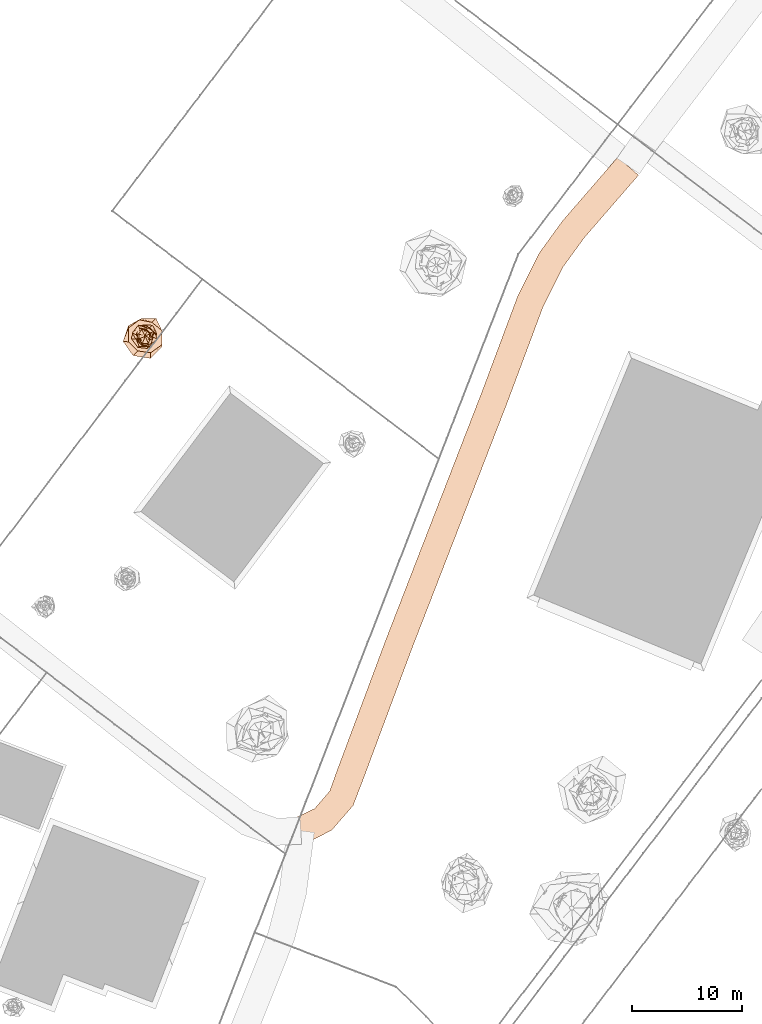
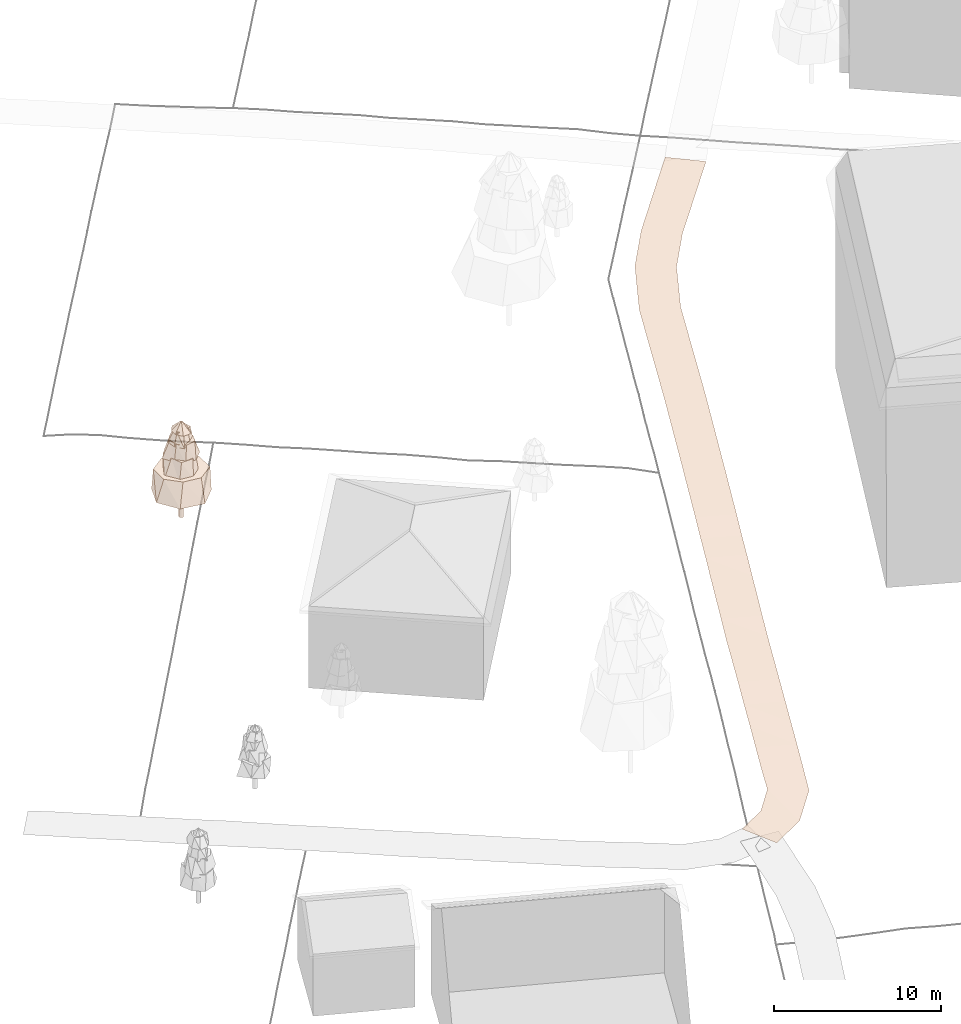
# Not in any storey, part 79 of 88: 2 geographic elements.
"""IFC4 model written with IfcOpenShell, lengths in metres."""

from ifc_helpers import new_model, si_unit, frame, origin_with_axes, place, context, subcontext, project, spatial, circle, extrude, faceted_brep, triangles, element, save


model = new_model("IFC4")

# Units and contexts
model_context = context("Model", 3, precision=1e-05, world=origin_with_axes())
body_context = subcontext(model_context, "Body", "Model", "MODEL_VIEW")
ifc_project = project(units=[si_unit("LENGTHUNIT", "METRE"), si_unit("AREAUNIT", "SQUARE_METRE"), si_unit("VOLUMEUNIT", "CUBIC_METRE"), si_unit("PLANEANGLEUNIT", "RADIAN")], contexts=[model_context])

# Sites
site_1_placement = place(None, origin_with_axes())
site_1 = spatial("IfcSite", under=ifc_project, at=site_1_placement, Name="CH907857693633", CompositionType="ELEMENT")
site_2_placement = place(None, origin_with_axes())
site_2 = spatial("IfcSite", under=site_1, at=site_2_placement, Name="Vegetation", CompositionType="ELEMENT")

# Geographic element
geographic_element_1_placement = place(None, frame((22.1620000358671, 147.274003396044, 6.801025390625), z_axis=(0.0, 0.0, 1.0), x_axis=(1.0, 0.0, 0.0)))
element("IfcGeographicElement", 1, at=geographic_element_1_placement, inside=site_2, Name="Tree_einzelbaum", ObjectType="VEGETATION", PredefinedType="USERDEFINED", context=body_context, shape_type="Brep", body=[
    extrude(circle(Radius=0.15), origin_with_axes(), (0.0, 0.0, 1.0), 1.97711560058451),
    faceted_brep([(1.54180832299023, -0.949039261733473, 1.97711560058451), (0.481224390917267, -2.02213086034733, 1.97711560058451), (-1.08536850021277, -1.76328868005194, 1.97711560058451), (-1.99094691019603, -0.473803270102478, 1.97711560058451), (-1.51908018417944, 0.935049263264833, 1.97711560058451), (-0.377123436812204, 1.58469303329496, 1.97711560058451), (0.999682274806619, 1.62408291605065, 1.97711560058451), (1.54812432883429, 0.368420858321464, 1.97711560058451), (1.51712291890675, 0.525818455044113, 3.54947756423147), (0.610751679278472, 1.25867472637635, 3.54947756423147), (-0.513820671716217, 1.48250619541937, 3.54947756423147), (-1.51402443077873, 0.734656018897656, 3.54947756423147), (-1.50591803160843, -0.521934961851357, 3.54947756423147), (-0.652344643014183, -1.34439207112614, 3.54947756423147), (0.522243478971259, -1.50680818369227, 3.54947756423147), (1.5609606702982, -0.757431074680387, 3.54947756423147), (1.54812432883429, 0.368420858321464, 1.97711560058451), (0.999682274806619, 1.62408291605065, 1.97711560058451), (0.610751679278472, 1.25867472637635, 3.54947756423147), (1.51712291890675, 0.525818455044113, 3.54947756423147), (0.999682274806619, 1.62408291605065, 1.97711560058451), (-0.377123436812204, 1.58469303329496, 1.97711560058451), (-0.513820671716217, 1.48250619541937, 3.54947756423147), (0.610751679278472, 1.25867472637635, 3.54947756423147), (-0.377123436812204, 1.58469303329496, 1.97711560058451), (-1.51908018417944, 0.935049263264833, 1.97711560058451), (-1.51402443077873, 0.734656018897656, 3.54947756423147), (-0.513820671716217, 1.48250619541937, 3.54947756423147), (-1.51908018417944, 0.935049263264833, 1.97711560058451), (-1.99094691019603, -0.473803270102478, 1.97711560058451), (-1.50591803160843, -0.521934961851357, 3.54947756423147), (-1.51402443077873, 0.734656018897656, 3.54947756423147), (-1.99094691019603, -0.473803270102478, 1.97711560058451), (-1.08536850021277, -1.76328868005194, 1.97711560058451), (-0.652344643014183, -1.34439207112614, 3.54947756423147), (-1.50591803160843, -0.521934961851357, 3.54947756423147), (-1.08536850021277, -1.76328868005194, 1.97711560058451), (0.481224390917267, -2.02213086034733, 1.97711560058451), (0.522243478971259, -1.50680818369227, 3.54947756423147), (-0.652344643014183, -1.34439207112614, 3.54947756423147), (0.481224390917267, -2.02213086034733, 1.97711560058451), (1.54180832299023, -0.949039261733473, 1.97711560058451), (1.5609606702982, -0.757431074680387, 3.54947756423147), (0.522243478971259, -1.50680818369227, 3.54947756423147), (1.54180832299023, -0.949039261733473, 1.97711560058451), (1.54812432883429, 0.368420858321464, 1.97711560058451), (1.51712291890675, 0.525818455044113, 3.54947756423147), (1.5609606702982, -0.757431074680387, 3.54947756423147)], [[[0, 1, 2, 3, 4, 5, 6, 7]], [[8, 9, 10, 11, 12, 13, 14, 15]], [[16, 17, 18, 19]], [[20, 21, 22, 23]], [[24, 25, 26, 27]], [[28, 29, 30, 31]], [[32, 33, 34, 35]], [[36, 37, 38, 39]], [[40, 41, 42, 43]], [[44, 45, 46, 47]]]),
    faceted_brep([(0.867536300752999, -0.599147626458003, 3.31362326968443), (0.208492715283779, -1.13936594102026, 3.31362326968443), (-0.714143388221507, -1.03404450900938, 3.31362326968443), (-1.31095918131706, -0.239892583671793, 3.31362326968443), (-0.895877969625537, 0.618721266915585, 3.31362326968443), (-0.191235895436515, 1.04506128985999, 3.31362326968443), (0.708489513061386, 1.02585797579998, 3.31362326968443), (1.09301063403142, 0.200010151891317, 3.31362326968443), (0.92898914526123, 0.268128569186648, 4.68178103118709), (0.439959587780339, 0.7969660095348, 4.68178103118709), (-0.226436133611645, 0.784536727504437, 4.68178103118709), (-0.949007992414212, 0.523893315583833, 4.68178103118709), (-0.822392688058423, -0.23736227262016, 4.68178103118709), (-0.520828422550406, -0.943456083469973, 4.68178103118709), (0.267335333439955, -0.92624080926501, 4.68178103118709), (0.743443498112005, -0.410412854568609, 4.68178103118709), (1.09301063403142, 0.200010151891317, 3.31362326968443), (0.708489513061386, 1.02585797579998, 3.31362326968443), (0.439959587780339, 0.7969660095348, 4.68178103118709), (0.92898914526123, 0.268128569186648, 4.68178103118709), (0.708489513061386, 1.02585797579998, 3.31362326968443), (-0.191235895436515, 1.04506128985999, 3.31362326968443), (-0.226436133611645, 0.784536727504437, 4.68178103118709), (0.439959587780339, 0.7969660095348, 4.68178103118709), (-0.191235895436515, 1.04506128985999, 3.31362326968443), (-0.895877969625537, 0.618721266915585, 3.31362326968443), (-0.949007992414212, 0.523893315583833, 4.68178103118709), (-0.226436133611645, 0.784536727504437, 4.68178103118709), (-0.895877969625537, 0.618721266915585, 3.31362326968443), (-1.31095918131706, -0.239892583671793, 3.31362326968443), (-0.822392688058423, -0.23736227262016, 4.68178103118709), (-0.949007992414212, 0.523893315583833, 4.68178103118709), (-1.31095918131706, -0.239892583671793, 3.31362326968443), (-0.714143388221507, -1.03404450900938, 3.31362326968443), (-0.520828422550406, -0.943456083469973, 4.68178103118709), (-0.822392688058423, -0.23736227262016, 4.68178103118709), (-0.714143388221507, -1.03404450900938, 3.31362326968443), (0.208492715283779, -1.13936594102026, 3.31362326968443), (0.267335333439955, -0.92624080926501, 4.68178103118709), (-0.520828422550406, -0.943456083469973, 4.68178103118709), (0.208492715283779, -1.13936594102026, 3.31362326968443), (0.867536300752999, -0.599147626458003, 3.31362326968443), (0.743443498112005, -0.410412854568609, 4.68178103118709), (0.267335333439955, -0.92624080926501, 4.68178103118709), (0.867536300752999, -0.599147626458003, 3.31362326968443), (1.09301063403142, 0.200010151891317, 3.31362326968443), (0.92898914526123, 0.268128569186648, 4.68178103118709), (0.743443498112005, -0.410412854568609, 4.68178103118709)], [[[0, 1, 2, 3, 4, 5, 6, 7]], [[8, 9, 10, 11, 12, 13, 14, 15]], [[16, 17, 18, 19]], [[20, 21, 22, 23]], [[24, 25, 26, 27]], [[28, 29, 30, 31]], [[32, 33, 34, 35]], [[36, 37, 38, 39]], [[40, 41, 42, 43]], [[44, 45, 46, 47]]]),
    faceted_brep([(1.13031694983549, -0.271890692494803, 4.47655736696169), (0.529531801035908, -0.864970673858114, 4.47655736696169), (-0.223704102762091, -0.929993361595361, 4.47655736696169), (-0.738188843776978, -0.451916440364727, 4.47655736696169), (-1.16073361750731, 0.279207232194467, 4.47655736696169), (-0.608997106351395, 0.994774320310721, 4.47655736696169), (0.216673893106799, 0.900767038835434, 4.47655736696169), (0.797557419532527, 0.488261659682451, 4.47655736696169), (0.506898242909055, 0.384817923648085, 5.74910438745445), (0.106375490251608, 0.777002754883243, 5.74910438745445), (-0.449244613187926, 0.591763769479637, 5.74910438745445), (-0.737470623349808, 0.10096334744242, 5.74910438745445), (-0.619327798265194, -0.470170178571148, 5.74910438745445), (-0.115067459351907, -0.840491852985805, 5.74910438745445), (0.540014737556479, -0.711329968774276, 5.74910438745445), (0.746415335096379, -0.10218792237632, 5.74910438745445), (0.797557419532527, 0.488261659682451, 4.47655736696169), (0.216673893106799, 0.900767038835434, 4.47655736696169), (0.106375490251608, 0.777002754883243, 5.74910438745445), (0.506898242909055, 0.384817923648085, 5.74910438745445), (0.216673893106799, 0.900767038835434, 4.47655736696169), (-0.608997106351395, 0.994774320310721, 4.47655736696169), (-0.449244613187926, 0.591763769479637, 5.74910438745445), (0.106375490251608, 0.777002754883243, 5.74910438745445), (-0.608997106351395, 0.994774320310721, 4.47655736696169), (-1.16073361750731, 0.279207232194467, 4.47655736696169), (-0.737470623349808, 0.10096334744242, 5.74910438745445), (-0.449244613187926, 0.591763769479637, 5.74910438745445), (-1.16073361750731, 0.279207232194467, 4.47655736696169), (-0.738188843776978, -0.451916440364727, 4.47655736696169), (-0.619327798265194, -0.470170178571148, 5.74910438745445), (-0.737470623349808, 0.10096334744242, 5.74910438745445), (-0.738188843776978, -0.451916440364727, 4.47655736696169), (-0.223704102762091, -0.929993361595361, 4.47655736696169), (-0.115067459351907, -0.840491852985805, 5.74910438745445), (-0.619327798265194, -0.470170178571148, 5.74910438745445), (-0.223704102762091, -0.929993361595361, 4.47655736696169), (0.529531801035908, -0.864970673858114, 4.47655736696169), (0.540014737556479, -0.711329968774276, 5.74910438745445), (-0.115067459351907, -0.840491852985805, 5.74910438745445), (0.529531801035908, -0.864970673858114, 4.47655736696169), (1.13031694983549, -0.271890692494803, 4.47655736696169), (0.746415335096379, -0.10218792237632, 5.74910438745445), (0.540014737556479, -0.711329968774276, 5.74910438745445), (1.13031694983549, -0.271890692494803, 4.47655736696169), (0.797557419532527, 0.488261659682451, 4.47655736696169), (0.506898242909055, 0.384817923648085, 5.74910438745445), (0.746415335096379, -0.10218792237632, 5.74910438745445)], [[[0, 1, 2, 3, 4, 5, 6, 7]], [[8, 9, 10, 11, 12, 13, 14, 15]], [[16, 17, 18, 19]], [[20, 21, 22, 23]], [[24, 25, 26, 27]], [[28, 29, 30, 31]], [[32, 33, 34, 35]], [[36, 37, 38, 39]], [[40, 41, 42, 43]], [[44, 45, 46, 47]]]),
    faceted_brep([(0.700121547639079, -0.22047147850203, 5.55822233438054), (0.302070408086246, -0.579764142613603, 5.55822233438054), (-0.272250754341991, -0.864550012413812, 5.55822233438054), (-0.696391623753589, -0.362835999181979, 5.55822233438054), (-0.790026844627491, 0.248783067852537, 5.55822233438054), (-0.388102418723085, 0.744885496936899, 5.55822233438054), (0.240152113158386, 0.762618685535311, 5.55822233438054), (0.799424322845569, 0.416518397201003, 5.55822233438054), (0.416356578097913, 0.272976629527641, 6.48819661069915), (0.11957109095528, 0.574866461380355, 6.48819661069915), (-0.258388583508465, 0.394106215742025, 6.48819661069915), (-0.408993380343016, 0.0850698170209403, 6.48819661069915), (-0.466391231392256, -0.30578094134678, 6.48819661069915), (-0.100629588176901, -0.48380068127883, 6.48819661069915), (0.236260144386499, -0.360354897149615, 6.48819661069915), (0.557022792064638, -0.115859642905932, 6.48819661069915), (0.799424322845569, 0.416518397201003, 5.55822233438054), (0.240152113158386, 0.762618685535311, 5.55822233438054), (0.11957109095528, 0.574866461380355, 6.48819661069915), (0.416356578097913, 0.272976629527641, 6.48819661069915), (0.240152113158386, 0.762618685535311, 5.55822233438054), (-0.388102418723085, 0.744885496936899, 5.55822233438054), (-0.258388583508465, 0.394106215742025, 6.48819661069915), (0.11957109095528, 0.574866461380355, 6.48819661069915), (-0.388102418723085, 0.744885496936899, 5.55822233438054), (-0.790026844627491, 0.248783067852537, 5.55822233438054), (-0.408993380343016, 0.0850698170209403, 6.48819661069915), (-0.258388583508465, 0.394106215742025, 6.48819661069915), (-0.790026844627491, 0.248783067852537, 5.55822233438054), (-0.696391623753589, -0.362835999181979, 5.55822233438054), (-0.466391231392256, -0.30578094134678, 6.48819661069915), (-0.408993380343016, 0.0850698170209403, 6.48819661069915), (-0.696391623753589, -0.362835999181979, 5.55822233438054), (-0.272250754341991, -0.864550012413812, 5.55822233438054), (-0.100629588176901, -0.48380068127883, 6.48819661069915), (-0.466391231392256, -0.30578094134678, 6.48819661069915), (-0.272250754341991, -0.864550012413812, 5.55822233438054), (0.302070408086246, -0.579764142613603, 5.55822233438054), (0.236260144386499, -0.360354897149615, 6.48819661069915), (-0.100629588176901, -0.48380068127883, 6.48819661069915), (0.302070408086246, -0.579764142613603, 5.55822233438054), (0.700121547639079, -0.22047147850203, 5.55822233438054), (0.557022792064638, -0.115859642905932, 6.48819661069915), (0.236260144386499, -0.360354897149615, 6.48819661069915), (0.700121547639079, -0.22047147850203, 5.55822233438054), (0.799424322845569, 0.416518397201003, 5.55822233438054), (0.416356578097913, 0.272976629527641, 6.48819661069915), (0.557022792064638, -0.115859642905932, 6.48819661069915)], [[[0, 1, 2, 3, 4, 5, 6, 7]], [[8, 9, 10, 11, 12, 13, 14, 15]], [[16, 17, 18, 19]], [[20, 21, 22, 23]], [[24, 25, 26, 27]], [[28, 29, 30, 31]], [[32, 33, 34, 35]], [[36, 37, 38, 39]], [[40, 41, 42, 43]], [[44, 45, 46, 47]]]),
    faceted_brep([(0.469744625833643, -0.16829967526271, 6.34870046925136), (0.308541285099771, -0.653064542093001, 6.34870046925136), (-0.243321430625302, -0.679139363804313, 6.34870046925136), (-0.563449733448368, -0.266202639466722, 6.34870046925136), (-0.567359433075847, 0.203273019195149, 6.34870046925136), (-0.290788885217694, 0.615489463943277, 6.34870046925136), (0.200716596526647, 0.560224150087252, 6.34870046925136), (0.534786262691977, 0.252660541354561, 6.34870046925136), (0.0746855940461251, 0.0449076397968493, 6.94023714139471), (0.0176328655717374, 0.0708165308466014, 6.94023714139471), (-0.0367709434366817, 0.0611535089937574, 6.94023714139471), (-0.0611163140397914, 0.015217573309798, 6.94023714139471), (-0.0628711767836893, -0.037803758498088, 6.94023714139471), (-0.01768133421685, -0.0710111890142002, 6.94023714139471), (0.0427094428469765, -0.0710297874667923, 6.94023714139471), (0.0781141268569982, -0.0194499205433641, 6.94023714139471), (0.534786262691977, 0.252660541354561, 6.34870046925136), (0.200716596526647, 0.560224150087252, 6.34870046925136), (0.0176328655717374, 0.0708165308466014, 6.94023714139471), (0.0746855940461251, 0.0449076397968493, 6.94023714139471), (0.200716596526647, 0.560224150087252, 6.34870046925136), (-0.290788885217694, 0.615489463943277, 6.34870046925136), (-0.0367709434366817, 0.0611535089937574, 6.94023714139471), (0.0176328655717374, 0.0708165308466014, 6.94023714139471), (-0.290788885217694, 0.615489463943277, 6.34870046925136), (-0.567359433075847, 0.203273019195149, 6.34870046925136), (-0.0611163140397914, 0.015217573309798, 6.94023714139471), (-0.0367709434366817, 0.0611535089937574, 6.94023714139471), (-0.567359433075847, 0.203273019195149, 6.34870046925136), (-0.563449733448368, -0.266202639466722, 6.34870046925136), (-0.0628711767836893, -0.037803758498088, 6.94023714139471), (-0.0611163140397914, 0.015217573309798, 6.94023714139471), (-0.563449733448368, -0.266202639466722, 6.34870046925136), (-0.243321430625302, -0.679139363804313, 6.34870046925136), (-0.01768133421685, -0.0710111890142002, 6.94023714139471), (-0.0628711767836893, -0.037803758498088, 6.94023714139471), (-0.243321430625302, -0.679139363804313, 6.34870046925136), (0.308541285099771, -0.653064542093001, 6.34870046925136), (0.0427094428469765, -0.0710297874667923, 6.94023714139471), (-0.01768133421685, -0.0710111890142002, 6.94023714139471), (0.308541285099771, -0.653064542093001, 6.34870046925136), (0.469744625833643, -0.16829967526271, 6.34870046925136), (0.0781141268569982, -0.0194499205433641, 6.94023714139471), (0.0427094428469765, -0.0710297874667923, 6.94023714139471), (0.469744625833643, -0.16829967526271, 6.34870046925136), (0.534786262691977, 0.252660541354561, 6.34870046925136), (0.0746855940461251, 0.0449076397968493, 6.94023714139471), (0.0781141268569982, -0.0194499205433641, 6.94023714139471)], [[[0, 1, 2, 3, 4, 5, 6, 7]], [[8, 9, 10, 11, 12, 13, 14, 15]], [[16, 17, 18, 19]], [[20, 21, 22, 23]], [[24, 25, 26, 27]], [[28, 29, 30, 31]], [[32, 33, 34, 35]], [[36, 37, 38, 39]], [[40, 41, 42, 43]], [[44, 45, 46, 47]]]),
])

# Site
site_3_placement = place(None, origin_with_axes())
site_3 = spatial("IfcSite", under=site_1, at=site_3_placement, Name="Roads", CompositionType="ELEMENT")

# Geographic element
geographic_element_2_placement = place(None, origin_with_axes())
element("IfcGeographicElement", 2, at=geographic_element_2_placement, inside=site_3, Name="Road_weg", ObjectType="ROAD", PredefinedType="USERDEFINED", context=body_context, shape_type="Tessellation", body=[
    triangles([(66.9726113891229, 161.889340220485, 8.24311523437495), (65.3216113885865, 159.984340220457, 8.1999633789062), (63.67061138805, 158.079340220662, 8.14582519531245), (62.058899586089, 156.22200295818, 8.09919433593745), (60.0982281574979, 153.527933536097, 7.98615722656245), (59.2085340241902, 151.733986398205, 7.9177368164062), (58.2850543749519, 149.891247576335, 7.8842895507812), (57.5153782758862, 147.823765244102, 7.83759765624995), (56.7216282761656, 145.696515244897, 7.7829711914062), (55.9278782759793, 143.56926524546, 7.73725585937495), (55.1314999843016, 141.435035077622, 7.6723754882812), (54.3982467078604, 139.543376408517, 7.62092285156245), (53.667996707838, 137.6595430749, 7.5713012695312), (52.9377467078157, 135.775709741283, 7.5265014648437), (52.2074967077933, 133.891876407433, 7.4812133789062), (51.477246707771, 132.008043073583, 7.4060180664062), (50.746996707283, 130.124209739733, 7.33833007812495), (50.0167467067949, 128.240376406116, 7.21223144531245), (49.2864967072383, 126.356543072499, 7.1690795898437), (48.5562467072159, 124.472709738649, 7.05927734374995), (47.8259967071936, 122.588876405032, 6.9875610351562), (47.0957467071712, 120.705043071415, 6.88874511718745), (46.3684916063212, 118.829013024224, 6.80329589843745), (45.6274272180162, 116.840719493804, 6.69916992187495), (44.8835700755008, 114.845005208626, 6.59406738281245), (44.1397129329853, 112.849290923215, 6.46406249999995), (43.3958557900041, 110.85357663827, 6.3443725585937), (42.6519986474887, 108.857862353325, 6.22785644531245), (41.9081415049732, 106.862148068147, 6.0659301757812), (41.0581310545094, 104.648789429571, 5.9420288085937), (39.1175801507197, 102.41850182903, 5.75458984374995), (36.8687968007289, 101.264859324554, 5.62385253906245), (65.0833886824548, 163.52666656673, 8.2282836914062), (63.4323886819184, 161.621666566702, 8.19575195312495), (61.7813886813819, 159.716666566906, 8.14069824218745), (60.0911004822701, 157.764003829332, 8.0819213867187), (57.9877719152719, 154.86807324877, 7.98957519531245), (56.9724660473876, 152.852020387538, 7.91804199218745), (55.9909456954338, 150.884759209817, 7.88276367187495), (55.1731217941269, 148.697741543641, 7.8276489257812), (54.3793717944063, 146.570491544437, 7.7567260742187), (53.5856217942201, 144.443241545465, 7.72858886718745), (52.7945000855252, 142.322971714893, 7.6533325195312), (52.0672533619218, 140.446963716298, 7.6222045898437), (51.3370033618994, 138.563130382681, 7.57539062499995), (50.6067533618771, 136.679297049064, 7.55341796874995), (49.8765033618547, 134.795463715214, 7.48395996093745), (49.1462533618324, 132.911630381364, 7.4223754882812), (48.4160033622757, 131.02779704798, 7.3519409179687), (47.6857533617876, 129.143963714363, 7.2518432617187), (46.9555033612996, 127.26013038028, 7.18525390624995), (46.2252533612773, 125.37629704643, 7.06965332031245), (45.4950033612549, 123.492463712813, 6.98395996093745), (44.7647533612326, 121.608630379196, 6.91633300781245), (44.0315084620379, 119.716993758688, 6.7878540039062), (43.2848585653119, 117.713858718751, 6.7098510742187), (42.5410014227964, 115.718144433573, 6.6146362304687), (41.7971442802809, 113.722430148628, 6.4699829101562), (41.0532871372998, 111.726715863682, 6.37897949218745), (40.3094299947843, 109.731001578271, 6.2258422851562), (39.5655728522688, 107.735287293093, 6.0877807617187), (38.9278690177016, 105.957217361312, 5.98420410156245), (37.5644199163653, 104.377504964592, 5.82880859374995), (35.7512032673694, 103.501147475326, 5.67145996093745)], [[1, 33, 2], [33, 34, 2], [2, 34, 3], [34, 35, 3], [3, 35, 4], [35, 36, 4], [4, 36, 5], [36, 37, 5], [5, 37, 6], [37, 38, 6], [6, 38, 7], [38, 39, 7], [7, 39, 8], [39, 40, 8], [8, 40, 9], [40, 41, 9], [9, 41, 10], [41, 42, 10], [10, 42, 11], [42, 43, 11], [11, 43, 12], [43, 44, 12], [12, 44, 13], [44, 45, 13], [13, 45, 14], [45, 46, 14], [14, 46, 15], [46, 47, 15], [15, 47, 16], [47, 48, 16], [16, 48, 17], [48, 49, 17], [17, 49, 18], [49, 50, 18], [18, 50, 19], [50, 51, 19], [19, 51, 20], [51, 52, 20], [20, 52, 21], [52, 53, 21], [21, 53, 22], [53, 54, 22], [22, 54, 23], [54, 55, 23], [23, 55, 24], [55, 56, 24], [24, 56, 25], [56, 57, 25], [25, 57, 26], [57, 58, 26], [26, 58, 27], [58, 59, 27], [27, 59, 28], [59, 60, 28], [28, 60, 29], [60, 61, 29], [29, 61, 30], [61, 62, 30], [30, 62, 31], [62, 63, 31], [31, 63, 32], [63, 64, 32]]),
])

save(model, "model.ifc")
